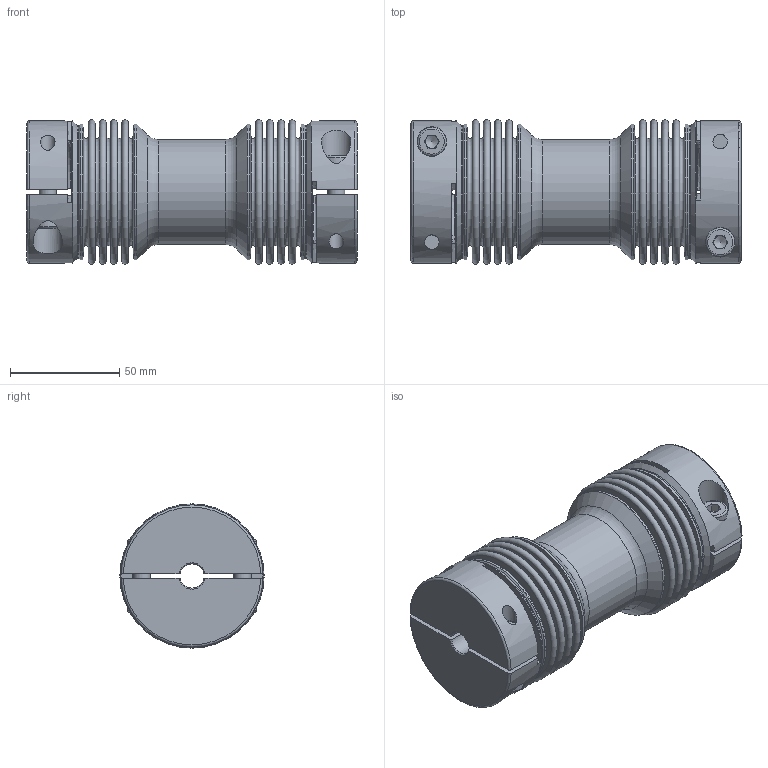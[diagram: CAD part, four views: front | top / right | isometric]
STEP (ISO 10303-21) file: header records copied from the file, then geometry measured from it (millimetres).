
FILE_DESCRIPTION(/* description */ ('Unknown','CAx-IF Rec.Pracs.---Representation and Presentation of Product Manufacturing Information (PMI)---4.0---2014-10-13','CAx-IF Rec.Pracs.---3D Tessellated Geometry---0.4---2014-09-14','2;1'),/* implementation_level */ '2;1');
FILE_NAME(/* name */ 'WDB 100',/* time_stamp */ '2023-01-16T11:48:40+01:00',/* author */ ('Unknown'),/* organization */ ('Unknown'),/* preprocessor_version */ 'ST-DEVELOPER v18.102',/* originating_system */ 'Solid Edge',/* authorisation */ 'Unknown');
FILE_SCHEMA (('AP242_MANAGED_MODEL_BASED_3D_ENGINEERING_MIM_LF { 1 0 10303 442 1 1 4 }'));
Length unit declared in the file: millimetre
Products named in the file (1): 16824409
Bounding box: 150.87 x 66 x 66 mm (x, y, z)
Volume: 189869 mm3; surface area: 139981.6 mm2
Topology: 1 solids, 3 shells, 260 faces, 571 edges, 365 vertices
Faces by surface type: plane 122, torus 56, cylinder 52, cone 30
Full cylindrical faces by diameter (mm): 6.647 x8, 8 x4, 8.5 x4, 13 x4, 13.5 x4, 42 x1, 46 x4, 48 x1, 61 x4, 62 x4, 65 x2
Entity records: 8774 total; most frequent: CARTESIAN_POINT 1711, DIRECTION 1144, ORIENTED_EDGE 852, AXIS2_PLACEMENT_3D 504, FACE_BOUND 436, EDGE_LOOP 432, EDGE_CURVE 426, VERTEX_POINT 334
